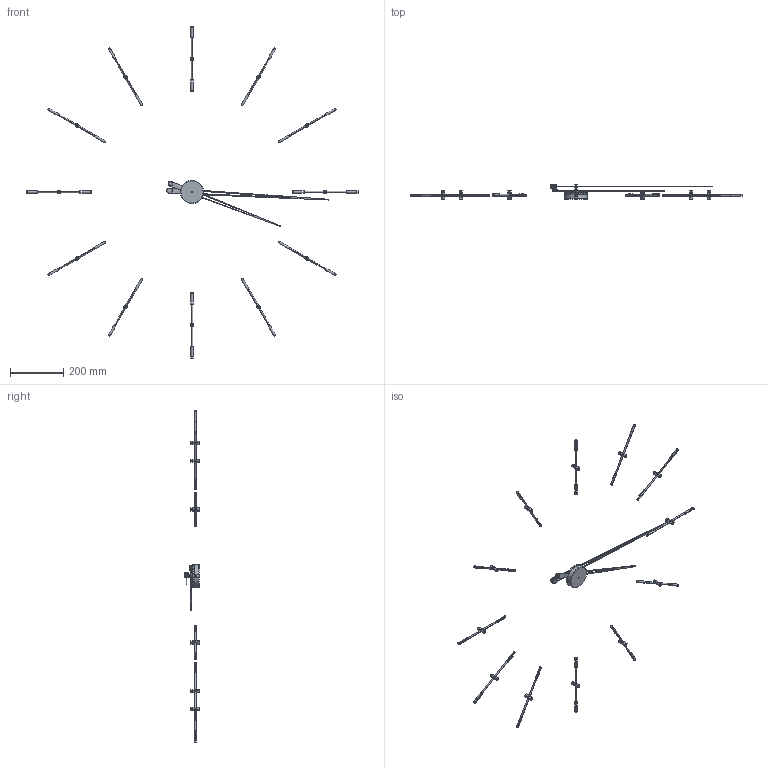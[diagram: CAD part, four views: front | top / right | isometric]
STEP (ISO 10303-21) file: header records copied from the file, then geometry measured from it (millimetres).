
FILE_DESCRIPTION (( 'STEP AP214' ), '1' );
FILE_NAME ('Merlín n_125.STEP', '2016-09-30T07:39:43', ( '' ), ( '' ), 'SwSTEP 2.0', 'SolidWorks 2016', '' );
FILE_SCHEMA (( 'AUTOMOTIVE_DESIGN' ));
Length unit declared in the file: millimetre
Products named in the file (26): Anclaje_señal_horaria_merlin; Tuerca 1.5; Axioma_n_100; Esparrago_roscado_merlin; Pieza_caja_superior; Esparrago; Contrapeso grande; aguja_horaria_calada_nogal; Aguja_horaria_calada_nogal; Contrapeso_pequeño; Cierre_contrapeso; Merlín n_125; aguja_minutera_calada_nogal; Pieza2; Pieza_caja_inferior; Señal_horaria_merlín; Embellecedor; Aguja_minutera_calada_nogal; Pasante; Tuerca; Varilla_nogal_señal_horaria_merlín; Embellecedor_señal_horaria_merlín; Mecanismo; Casquillo_señal_horaria_merlín; Caja_acero_inox; Arandela_2
Assembly tree (39 placements, depth 4):
  Merlín n_125
    Axioma_n_100
      Caja_acero_inox
        Pieza_caja_inferior
        Pieza_caja_superior
        Mecanismo
        Pieza2
      Aguja_horaria_calada_nogal
        aguja_horaria_calada_nogal
        Contrapeso_pequeño
        Cierre_contrapeso
        Arandela_2
        Tuerca
        Pasante
      Aguja_minutera_calada_nogal
        aguja_minutera_calada_nogal
        Contrapeso grande  x2
        Arandela_2
        Embellecedor
        Esparrago
        Tuerca 1.5
    Señal_horaria_merlín  x12
      Anclaje_señal_horaria_merlin
      Casquillo_señal_horaria_merlín
      Embellecedor_señal_horaria_merlín
      Esparrago_roscado_merlin
      Varilla_nogal_señal_horaria_merlín
Bounding box: 1250.18 x 55.1 x 1250.18 mm (x, y, z)
Volume: 223412.1 mm3; surface area: 221230.7 mm2
Topology: 89 solids, 89 shells, 684 faces, 1388 edges, 910 vertices
Faces by surface type: cylinder 392, plane 254, torus 26, cone 12
Entity records: 7808 total; most frequent: CARTESIAN_POINT 1354, DIRECTION 1326, ORIENTED_EDGE 988, AXIS2_PLACEMENT_3D 562, EDGE_CURVE 494, VERTEX_POINT 314, EDGE_LOOP 282, CIRCLE 280
